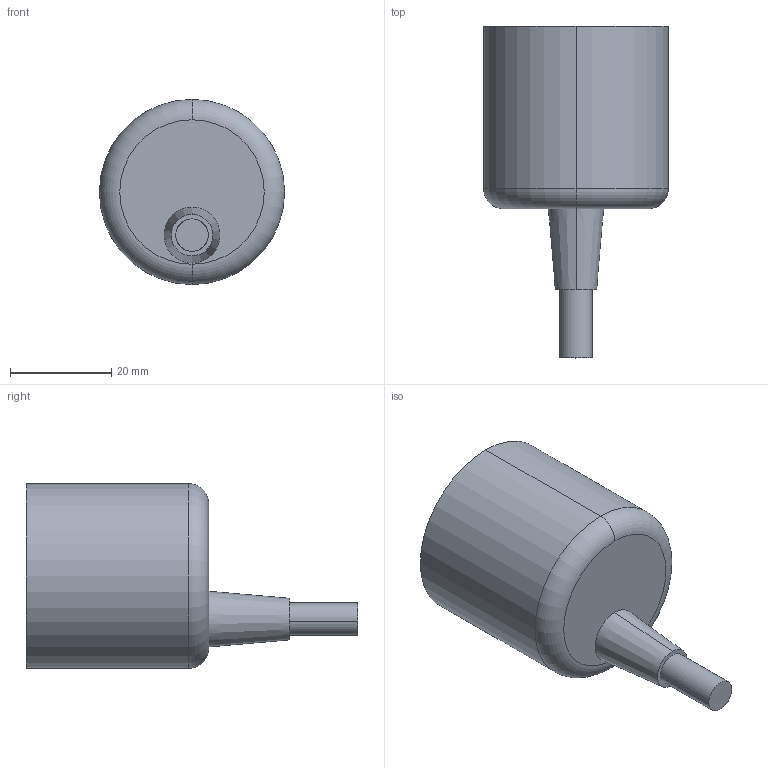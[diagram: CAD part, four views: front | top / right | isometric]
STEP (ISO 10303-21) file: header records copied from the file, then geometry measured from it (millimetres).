
FILE_DESCRIPTION (( 'STEP AP203' ), '1' );
FILE_NAME ('Drawing-MC-3-CA-360-SZM-09BNNN-N-CAW-N.STEP', '2013-06-04T08:21:56', ( '' ), ( '' ), 'SwSTEP 2.0', 'SolidWorks 2006104', '' );
FILE_SCHEMA (( 'CONFIG_CONTROL_DESIGN' ));
Length unit declared in the file: millimetre
Products named in the file (1): Drawing-MC-3-CA-360-SZM-09BNNN-N-CAW-N
Bounding box: 36.5 x 65.41 x 36.5 mm (x, y, z)
Volume: 6744.4 mm3; surface area: 13893 mm2
Topology: 3 solids, 3 shells, 32 faces, 59 edges, 38 vertices
Faces by surface type: plane 13, cylinder 10, torus 5, cone 4
Entity records: 936 total; most frequent: CARTESIAN_POINT 189, DIRECTION 161, ORIENTED_EDGE 118, AXIS2_PLACEMENT_3D 72, EDGE_CURVE 59, CIRCLE 39, VERTEX_POINT 38, EDGE_LOOP 37
